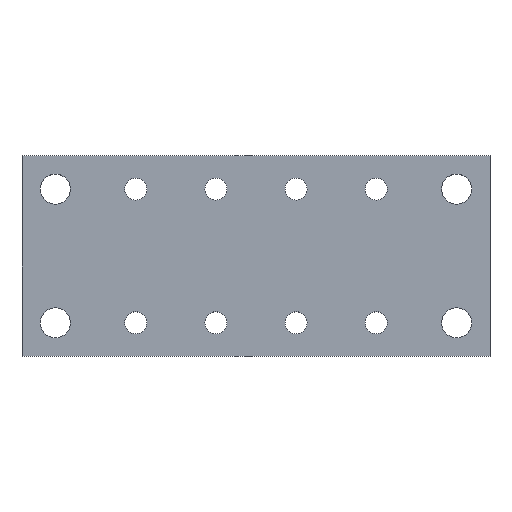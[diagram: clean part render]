
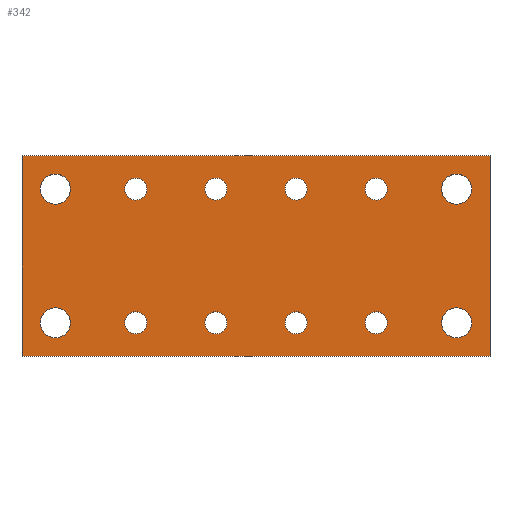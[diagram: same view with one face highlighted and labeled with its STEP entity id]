
A CAD part, top view. The second image highlights one B-rep face of the part: STEP entity #342.
In plain terms, the highlighted planar face has unit normal (0, 0, 1).
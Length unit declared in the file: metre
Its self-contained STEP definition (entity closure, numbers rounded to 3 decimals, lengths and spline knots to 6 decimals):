
#12=CIRCLE('',#361,0.00165);
#14=CIRCLE('',#364,0.00165);
#16=CIRCLE('',#367,0.00165);
#18=CIRCLE('',#370,0.00225);
#20=CIRCLE('',#373,0.00225);
#22=CIRCLE('',#376,0.00165);
#24=CIRCLE('',#379,0.00165);
#26=CIRCLE('',#382,0.00165);
#28=CIRCLE('',#385,0.00165);
#30=CIRCLE('',#389,0.00225);
#32=CIRCLE('',#392,0.00225);
#34=CIRCLE('',#395,0.00165);
#88=ORIENTED_EDGE('',*,*,#152,.F.);
#89=ORIENTED_EDGE('',*,*,#150,.F.);
#90=ORIENTED_EDGE('',*,*,#122,.F.);
#91=ORIENTED_EDGE('',*,*,#126,.F.);
#92=ORIENTED_EDGE('',*,*,#129,.T.);
#93=ORIENTED_EDGE('',*,*,#149,.T.);
#94=ORIENTED_EDGE('',*,*,#146,.F.);
#95=ORIENTED_EDGE('',*,*,#144,.F.);
#96=ORIENTED_EDGE('',*,*,#142,.F.);
#97=ORIENTED_EDGE('',*,*,#140,.F.);
#98=ORIENTED_EDGE('',*,*,#138,.F.);
#99=ORIENTED_EDGE('',*,*,#136,.F.);
#100=ORIENTED_EDGE('',*,*,#134,.F.);
#101=ORIENTED_EDGE('',*,*,#132,.F.);
#102=ORIENTED_EDGE('',*,*,#130,.F.);
#103=ORIENTED_EDGE('',*,*,#154,.F.);
#122=EDGE_CURVE('',#158,#159,#190,.T.);
#126=EDGE_CURVE('',#161,#158,#194,.T.);
#129=EDGE_CURVE('',#161,#163,#197,.T.);
#130=EDGE_CURVE('',#164,#164,#12,.T.);
#132=EDGE_CURVE('',#166,#166,#14,.T.);
#134=EDGE_CURVE('',#168,#168,#16,.T.);
#136=EDGE_CURVE('',#170,#170,#18,.T.);
#138=EDGE_CURVE('',#172,#172,#20,.T.);
#140=EDGE_CURVE('',#174,#174,#22,.T.);
#142=EDGE_CURVE('',#176,#176,#24,.T.);
#144=EDGE_CURVE('',#178,#178,#26,.T.);
#146=EDGE_CURVE('',#180,#180,#28,.T.);
#149=EDGE_CURVE('',#163,#159,#199,.T.);
#150=EDGE_CURVE('',#182,#182,#30,.T.);
#152=EDGE_CURVE('',#184,#184,#32,.T.);
#154=EDGE_CURVE('',#186,#186,#34,.T.);
#158=VERTEX_POINT('',#503);
#159=VERTEX_POINT('',#505);
#161=VERTEX_POINT('',#511);
#163=VERTEX_POINT('',#517);
#164=VERTEX_POINT('',#521);
#166=VERTEX_POINT('',#526);
#168=VERTEX_POINT('',#531);
#170=VERTEX_POINT('',#536);
#172=VERTEX_POINT('',#541);
#174=VERTEX_POINT('',#546);
#176=VERTEX_POINT('',#551);
#178=VERTEX_POINT('',#556);
#180=VERTEX_POINT('',#561);
#182=VERTEX_POINT('',#569);
#184=VERTEX_POINT('',#574);
#186=VERTEX_POINT('',#579);
#190=LINE('',#504,#202);
#194=LINE('',#512,#206);
#197=LINE('',#518,#209);
#199=LINE('',#566,#211);
#202=VECTOR('',#405,1.);
#206=VECTOR('',#411,1.);
#209=VECTOR('',#416,1.);
#211=VECTOR('',#474,1.);
#240=EDGE_LOOP('',(#88));
#241=EDGE_LOOP('',(#89));
#242=EDGE_LOOP('',(#90,#91,#92,#93));
#243=EDGE_LOOP('',(#94));
#244=EDGE_LOOP('',(#95));
#245=EDGE_LOOP('',(#96));
#246=EDGE_LOOP('',(#97));
#247=EDGE_LOOP('',(#98));
#248=EDGE_LOOP('',(#99));
#249=EDGE_LOOP('',(#100));
#250=EDGE_LOOP('',(#101));
#251=EDGE_LOOP('',(#102));
#252=EDGE_LOOP('',(#103));
#294=FACE_BOUND('',#240,.T.);
#295=FACE_BOUND('',#241,.T.);
#296=FACE_BOUND('',#242,.T.);
#297=FACE_BOUND('',#243,.T.);
#298=FACE_BOUND('',#244,.T.);
#299=FACE_BOUND('',#245,.T.);
#300=FACE_BOUND('',#246,.T.);
#301=FACE_BOUND('',#247,.T.);
#302=FACE_BOUND('',#248,.T.);
#303=FACE_BOUND('',#249,.T.);
#304=FACE_BOUND('',#250,.T.);
#305=FACE_BOUND('',#251,.T.);
#306=FACE_BOUND('',#252,.T.);
#324=PLANE('',#397);
#342=ADVANCED_FACE('',(#294,#295,#296,#297,#298,#299,#300,#301,#302,#303,
#304,#305,#306),#324,.T.);
#361=AXIS2_PLACEMENT_3D('',#520,#419,#420);
#364=AXIS2_PLACEMENT_3D('',#525,#425,#426);
#367=AXIS2_PLACEMENT_3D('',#530,#431,#432);
#370=AXIS2_PLACEMENT_3D('',#535,#437,#438);
#373=AXIS2_PLACEMENT_3D('',#540,#443,#444);
#376=AXIS2_PLACEMENT_3D('',#545,#449,#450);
#379=AXIS2_PLACEMENT_3D('',#550,#455,#456);
#382=AXIS2_PLACEMENT_3D('',#555,#461,#462);
#385=AXIS2_PLACEMENT_3D('',#560,#467,#468);
#389=AXIS2_PLACEMENT_3D('',#568,#477,#478);
#392=AXIS2_PLACEMENT_3D('',#573,#483,#484);
#395=AXIS2_PLACEMENT_3D('',#578,#489,#490);
#397=AXIS2_PLACEMENT_3D('',#582,#493,#494);
#405=DIRECTION('',(-1.,0.,0.));
#411=DIRECTION('',(0.,-1.,0.));
#416=DIRECTION('',(-1.,0.,0.));
#419=DIRECTION('',(0.,0.,1.));
#420=DIRECTION('',(1.,0.,0.));
#425=DIRECTION('',(0.,0.,1.));
#426=DIRECTION('',(1.,0.,0.));
#431=DIRECTION('',(0.,0.,1.));
#432=DIRECTION('',(1.,0.,0.));
#437=DIRECTION('',(0.,0.,1.));
#438=DIRECTION('',(1.,0.,0.));
#443=DIRECTION('',(0.,0.,1.));
#444=DIRECTION('',(1.,0.,0.));
#449=DIRECTION('',(0.,0.,1.));
#450=DIRECTION('',(1.,0.,0.));
#455=DIRECTION('',(0.,0.,1.));
#456=DIRECTION('',(1.,0.,0.));
#461=DIRECTION('',(0.,0.,1.));
#462=DIRECTION('',(1.,0.,0.));
#467=DIRECTION('',(0.,0.,1.));
#468=DIRECTION('',(1.,0.,0.));
#474=DIRECTION('',(0.,-1.,0.));
#477=DIRECTION('',(0.,0.,1.));
#478=DIRECTION('',(1.,0.,0.));
#483=DIRECTION('',(0.,0.,1.));
#484=DIRECTION('',(1.,0.,0.));
#489=DIRECTION('',(0.,0.,1.));
#490=DIRECTION('',(1.,0.,0.));
#493=DIRECTION('',(0.,0.,1.));
#494=DIRECTION('',(1.,0.,0.));
#503=CARTESIAN_POINT('',(0.035,-0.015,0.015));
#504=CARTESIAN_POINT('',(-0.03,-0.015,0.015));
#505=CARTESIAN_POINT('',(-0.035,-0.015,0.015));
#511=CARTESIAN_POINT('',(0.035,0.015,0.015));
#512=CARTESIAN_POINT('',(0.035,0.,0.015));
#517=CARTESIAN_POINT('',(-0.035,0.015,0.015));
#518=CARTESIAN_POINT('',(-0.03,0.015,0.015));
#520=CARTESIAN_POINT('',(-0.006,0.01,0.015));
#521=CARTESIAN_POINT('',(-0.00435,0.01,0.015));
#525=CARTESIAN_POINT('',(0.006,0.01,0.015));
#526=CARTESIAN_POINT('',(0.00765,0.01,0.015));
#530=CARTESIAN_POINT('',(0.018,0.01,0.015));
#531=CARTESIAN_POINT('',(0.01965,0.01,0.015));
#535=CARTESIAN_POINT('',(0.03,0.01,0.015));
#536=CARTESIAN_POINT('',(0.03225,0.01,0.015));
#540=CARTESIAN_POINT('',(0.03,-0.01,0.015));
#541=CARTESIAN_POINT('',(0.03225,-0.01,0.015));
#545=CARTESIAN_POINT('',(0.018,-0.01,0.015));
#546=CARTESIAN_POINT('',(0.01965,-0.01,0.015));
#550=CARTESIAN_POINT('',(0.006,-0.01,0.015));
#551=CARTESIAN_POINT('',(0.00765,-0.01,0.015));
#555=CARTESIAN_POINT('',(-0.006,-0.01,0.015));
#556=CARTESIAN_POINT('',(-0.00435,-0.01,0.015));
#560=CARTESIAN_POINT('',(-0.018,-0.01,0.015));
#561=CARTESIAN_POINT('',(-0.01635,-0.01,0.015));
#566=CARTESIAN_POINT('',(-0.035,0.,0.015));
#568=CARTESIAN_POINT('',(-0.03,-0.01,0.015));
#569=CARTESIAN_POINT('',(-0.02775,-0.01,0.015));
#573=CARTESIAN_POINT('',(-0.03,0.01,0.015));
#574=CARTESIAN_POINT('',(-0.02775,0.01,0.015));
#578=CARTESIAN_POINT('',(-0.018,0.01,0.015));
#579=CARTESIAN_POINT('',(-0.01635,0.01,0.015));
#582=CARTESIAN_POINT('',(0.,0.,0.015));
